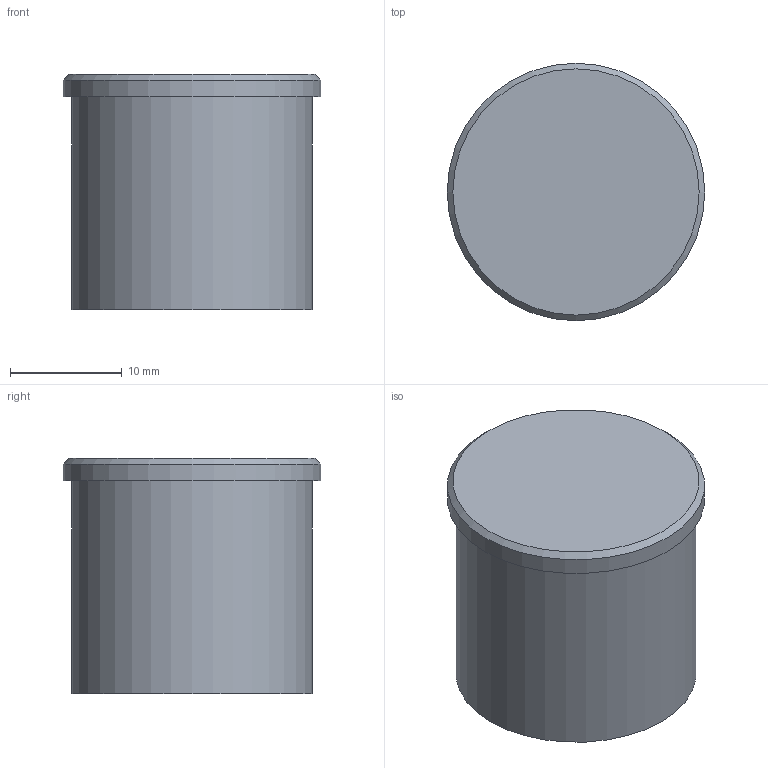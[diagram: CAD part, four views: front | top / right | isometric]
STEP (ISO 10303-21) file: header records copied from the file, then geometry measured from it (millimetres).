
FILE_DESCRIPTION (( 'STEP AP214' ), '1' );
FILE_NAME ('ﾂﾇﾊﾂﾌ3ﾀ.STEP', '2021-05-19T08:13:33', ( '' ), ( '' ), 'SwSTEP 2.0', 'SolidWorks 2018', '' );
FILE_SCHEMA (( 'AUTOMOTIVE_DESIGN' ));
Length unit declared in the file: millimetre
Products named in the file (1): ﾂﾇﾊﾂﾌ3ﾀ
Bounding box: 23 x 23 x 21 mm (x, y, z)
Volume: 4298.8 mm3; surface area: 3066.7 mm2
Topology: 1 solids, 1 shells, 8 faces, 11 edges, 7 vertices
Faces by surface type: plane 4, cylinder 3, cone 1
Full cylindrical faces by diameter (mm): 16.5 x1, 21.5 x1, 23 x1
Entity records: 188 total; most frequent: DIRECTION 32, CARTESIAN_POINT 23, AXIS2_PLACEMENT_3D 16, EDGE_LOOP 14, ORIENTED_EDGE 14, FACE_OUTER_BOUND 11, ADVANCED_FACE 8, VERTEX_POINT 7
